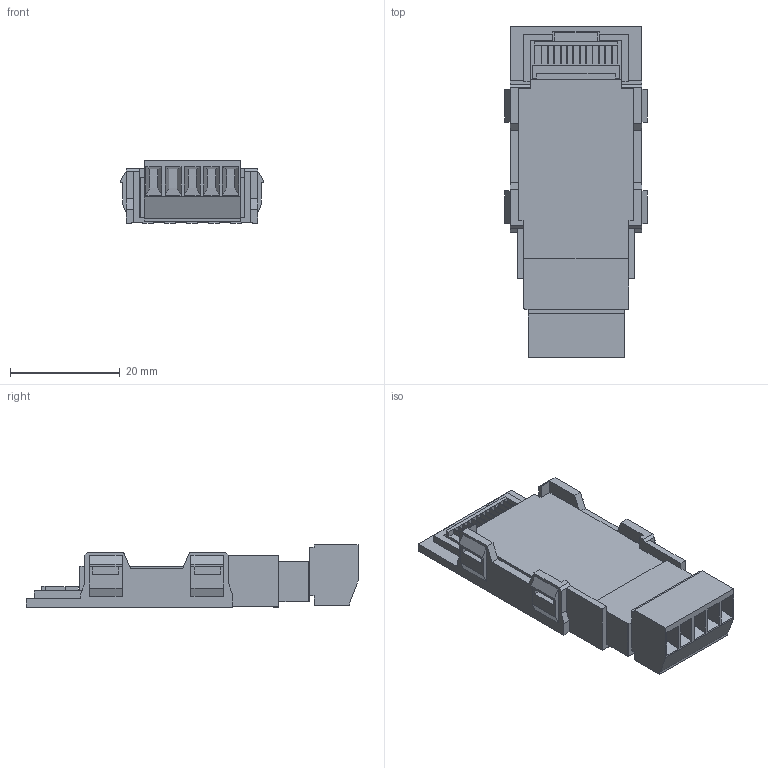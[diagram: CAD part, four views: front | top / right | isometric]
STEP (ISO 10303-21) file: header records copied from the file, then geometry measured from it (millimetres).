
FILE_DESCRIPTION (( 'STEP AP203' ), '1' );
FILE_NAME ('afpg806.STEP', '2013-07-17T06:44:18', ( 'sunx' ), ( 'sunx' ), 'SwSTEP 2.0', 'SolidWorks 2010', '' );
FILE_SCHEMA (( 'CONFIG_CONTROL_DESIGN' ));
Length unit declared in the file: millimetre
Products named in the file (1): afpg806
Bounding box: 26 x 60.4 x 11.4 mm (x, y, z)
Volume: 9119.8 mm3; surface area: 5597.6 mm2
Topology: 1 solids, 1 shells, 407 faces, 1150 edges, 758 vertices
Faces by surface type: plane 377, cylinder 30
Entity records: 13017 total; most frequent: CARTESIAN_POINT 2316, ORIENTED_EDGE 2300, DIRECTION 2046, EDGE_CURVE 1150, LINE 1070, VECTOR 1070, VERTEX_POINT 758, AXIS2_PLACEMENT_3D 488
